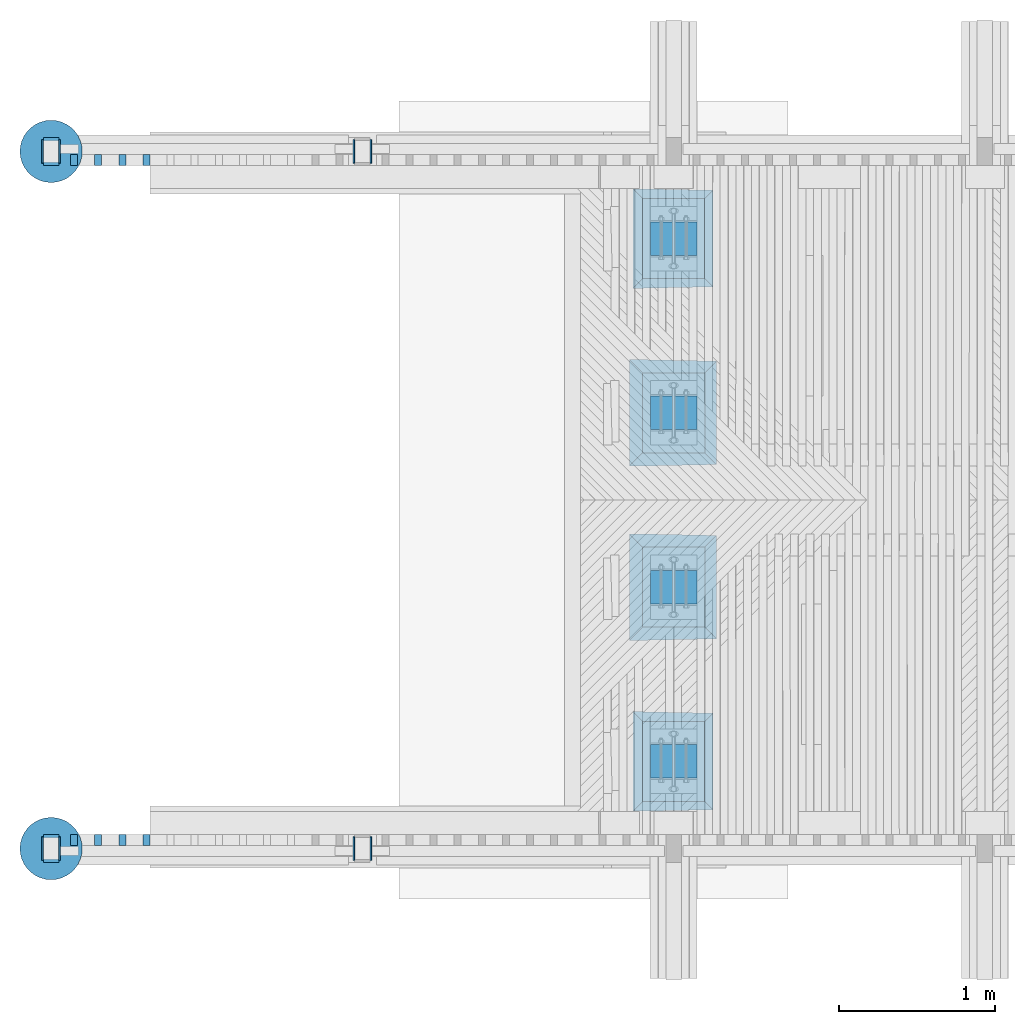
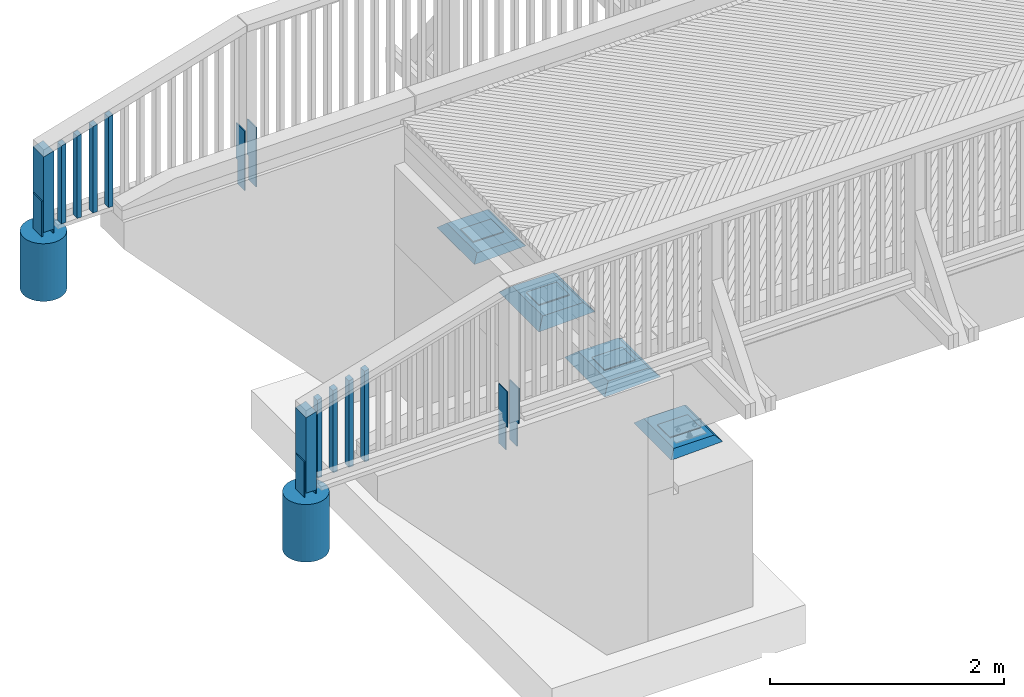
# One storey, part 12 of 53: 28 columns.
"""IFC2X3 building model written with IfcOpenShell, lengths in millimetres."""

from ifc_helpers import new_model, si_unit, frame, origin_with_axes, place, context, subcontext, project, spatial, faceted_brep, material, type_object, element, save


model = new_model("IFC2X3")

# Units and contexts
model_context = context("Model", 3, precision=1e-05, world=origin_with_axes())
body_context = subcontext(model_context, "Body", "Model", "MODEL_VIEW")
ifc_project = project(units=[si_unit("LENGTHUNIT", "METRE", prefix="MILLI"), si_unit("AREAUNIT", "SQUARE_METRE"), si_unit("VOLUMEUNIT", "CUBIC_METRE"), si_unit("MASSUNIT", "GRAM", prefix="KILO"), si_unit("TIMEUNIT", "SECOND"), si_unit("PLANEANGLEUNIT", "RADIAN"), si_unit("SOLIDANGLEUNIT", "STERADIAN"), si_unit("THERMODYNAMICTEMPERATUREUNIT", "DEGREE_CELSIUS"), si_unit("LUMINOUSINTENSITYUNIT", "LUMEN")], contexts=[model_context])

# Site, building, storey
site_placement = place(None, origin_with_axes())
site = spatial("IfcSite", under=ifc_project, at=site_placement, Name="Undefined", CompositionType="ELEMENT")
building_placement = place(site_placement, origin_with_axes())
building = spatial("IfcBuilding", under=site, at=building_placement, Name="Undefined", CompositionType="ELEMENT")
storey_placement = place(building_placement, origin_with_axes())
storey = spatial("IfcBuildingStorey", under=building, at=storey_placement, Name="Undefined", CompositionType="ELEMENT", Elevation=0.0)

# Columns
ifc_material_1 = material(Name="STEEL/AISI316")
column_type_1 = type_object("IfcColumnType", Name="PL150*10", PredefinedType="NOTDEFINED")
for number, where, z_axis, x_axis in (
    (1, (-3944.99999987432, 44605.0000000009, 2794.56000000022), (0.0, -1.0, 0.0), (0.0, 0.0, 1.0)),
    (2, (-1944.99999987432, 44605.0000000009, 2822.67000000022), (0.0, -1.0, 0.0), (0.0, 0.0, 1.0)),
):
    element("IfcColumn", number, at=place(storey_placement, frame(where, z_axis=z_axis, x_axis=x_axis)), inside=storey, type_object=column_type_1, material=ifc_material_1, Name="KAIDEPYLVÄS", ObjectType="PL150*10", context=body_context, shape_type="Brep", body=[
        faceted_brep([(0.0, -5.0, -50.0), (0.0, 5.0, -50.0), (250.0, 5.0, -50.0000000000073), (250.0, -5.0, -50.0000000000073), (250.0, -5.0, -75.0), (250.0, 5.0, -75.0), (0.0, 5.0, 75.0), (0.0, -5.0, 75.0), (620.0, -5.0, 75.0), (620.0, 5.0, 75.0), (620.0, -5.0, -75.0), (620.0, 5.0, -75.0)], [[[0, 1, 2, 3]], [[4, 3, 2, 5]], [[6, 7, 8, 9]], [[8, 10, 11, 9]], [[11, 10, 4, 5]], [[1, 6, 9, 11, 5, 2]], [[7, 6, 1, 0]], [[10, 8, 7, 0, 3, 4]]]),
    ])
for number, where, z_axis, x_axis in (
    (3, (-3944.99999987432, 40125.0, 2794.56000000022), (0.0, 1.0, 0.0), (0.0, 0.0, 1.0)),
    (4, (-1944.99999987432, 40125.0, 2822.67000000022), (0.0, 1.0, 0.0), (0.0, 0.0, 1.0)),
):
    element("IfcColumn", number, at=place(storey_placement, frame(where, z_axis=z_axis, x_axis=x_axis)), inside=storey, type_object=column_type_1, material=ifc_material_1, Name="KAIDEPYLVÄS", ObjectType="PL150*10", context=body_context, shape_type="Brep", body=[
        faceted_brep([(0.0, -5.0, -50.0), (0.0, 5.0, -50.0), (250.0, 5.0, -50.0000000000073), (250.0, -5.0, -50.0000000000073), (250.0, -5.0, -75.0), (250.0, 5.0, -75.0), (620.0, -5.0, 75.0), (620.0, -5.0, -75.0), (620.0, 5.0, -75.0), (620.0, 5.0, 75.0), (0.0, 5.0, 75.0), (0.0, -5.0, 75.0)], [[[0, 1, 2, 3]], [[4, 3, 2, 5]], [[6, 7, 8, 9]], [[10, 11, 6, 9]], [[11, 10, 1, 0]], [[7, 6, 11, 0, 3, 4]], [[8, 7, 4, 5]], [[1, 10, 9, 8, 5, 2]]]),
    ])
for number, where, z_axis, x_axis in (
    (5, (-4054.99999987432, 44605.0000000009, 2794.56000000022), (0.0, -1.0, 0.0), (0.0, 0.0, 1.0)),
    (6, (-2054.99999987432, 44605.0000000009, 2822.67000000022), (0.0, -1.0, 0.0), (0.0, 0.0, 1.0)),
):
    element("IfcColumn", number, at=place(storey_placement, frame(where, z_axis=z_axis, x_axis=x_axis)), inside=storey, type_object=column_type_1, material=ifc_material_1, Name="KAIDEPYLVÄS", ObjectType="PL150*10", context=body_context, shape_type="Brep", body=[
        faceted_brep([(0.0, -5.0, -50.0), (0.0, 5.0, -50.0), (250.0, 5.0, -50.0000000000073), (250.0, -5.0, -50.0000000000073), (250.0, -5.0, -75.0), (250.0, 5.0, -75.0), (0.0, 5.0, 75.0), (0.0, -5.0, 75.0), (620.0, -5.0, 75.0), (620.0, 5.0, 75.0), (620.0, -5.0, -75.0), (620.0, 5.0, -75.0)], [[[0, 1, 2, 3]], [[4, 3, 2, 5]], [[6, 7, 8, 9]], [[8, 10, 11, 9]], [[11, 10, 4, 5]], [[1, 6, 9, 11, 5, 2]], [[7, 6, 1, 0]], [[10, 8, 7, 0, 3, 4]]]),
    ])
for number, where, z_axis, x_axis in (
    (7, (-4054.99999987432, 40125.0, 2794.56000000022), (0.0, 1.0, 0.0), (0.0, 0.0, 1.0)),
    (8, (-2054.99999987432, 40125.0, 2822.67000000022), (0.0, 1.0, 0.0), (0.0, 0.0, 1.0)),
):
    element("IfcColumn", number, at=place(storey_placement, frame(where, z_axis=z_axis, x_axis=x_axis)), inside=storey, type_object=column_type_1, material=ifc_material_1, Name="KAIDEPYLVÄS", ObjectType="PL150*10", context=body_context, shape_type="Brep", body=[
        faceted_brep([(0.0, -5.0, -50.0), (0.0, 5.0, -50.0), (250.0, 5.0, -50.0000000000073), (250.0, -5.0, -50.0000000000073), (250.0, -5.0, -75.0), (250.0, 5.0, -75.0), (620.0, -5.0, 75.0), (620.0, -5.0, -75.0), (620.0, 5.0, -75.0), (620.0, 5.0, 75.0), (0.0, 5.0, 75.0), (0.0, -5.0, 75.0)], [[[0, 1, 2, 3]], [[4, 3, 2, 5]], [[6, 7, 8, 9]], [[10, 11, 6, 9]], [[11, 10, 1, 0]], [[7, 6, 11, 0, 3, 4]], [[8, 7, 4, 5]], [[1, 10, 9, 8, 5, 2]]]),
    ])
ifc_material_2 = material(Name="TIMBER/Timber_Undefined")
column_type_2 = type_object("IfcColumnType", Name="180*100", PredefinedType="NOTDEFINED")
column_1_placement = place(storey_placement, frame((-3999.99999924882, 44604.9879080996, 3109.68000000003), z_axis=(0.0, -1.0, 0.0), x_axis=(0.0, 0.0, 1.0)))
element("IfcColumn", 9, at=column_1_placement, inside=storey, type_object=column_type_2, material=ifc_material_2, Name="KAIDEPYLVÄS", ObjectType="180*100", context=body_context, shape_type="Brep", body=[
    faceted_brep([(-15.1200000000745, 50.0, -90.0), (-15.1200000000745, 50.0, 90.0), (771.050236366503, 50.0, 90.0), (771.050236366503, 50.0, -90.0), (-15.1200000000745, -50.0, 90.0), (800.720209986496, -50.0, 90.0), (-15.1200000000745, -50.0, -90.0), (800.720209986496, -50.0, -90.0)], [[[0, 1, 2, 3]], [[1, 4, 5, 2]], [[4, 6, 7, 5]], [[6, 0, 3, 7]], [[5, 7, 3, 2]], [[6, 4, 1, 0]]]),
])
column_2_placement = place(storey_placement, frame((-3999.99999924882, 40125.0120919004, 3109.68000000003), z_axis=(0.0, 1.0, 0.0), x_axis=(0.0, 0.0, 1.0)))
element("IfcColumn", 10, at=column_2_placement, inside=storey, type_object=column_type_2, material=ifc_material_2, Name="KAIDEPYLVÄS", ObjectType="180*100", context=body_context, shape_type="Brep", body=[
    faceted_brep([(-15.1200000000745, 50.0, -90.0), (-15.1200000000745, 50.0, 90.0), (800.720209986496, 50.0, 90.0), (800.720209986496, 50.0, -90.0), (-15.1200000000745, -50.0, 90.0), (771.050236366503, -50.0, 90.0), (-15.1200000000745, -50.0, -90.0), (771.050236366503, -50.0, -90.0)], [[[0, 1, 2, 3]], [[1, 4, 5, 2]], [[4, 6, 7, 5]], [[6, 0, 3, 7]], [[5, 7, 3, 2]], [[6, 4, 1, 0]]]),
])
ifc_material_3 = material(Name="CONCRETE/Concrete_Undefined")
column_type_3 = type_object("IfcColumnType", Name="D400", PredefinedType="NOTDEFINED")
column_3_placement = place(storey_placement, frame((-3999.99999953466, 44604.9858270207, 2444.55999999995), z_axis=(-1.0, 0.0, 0.0), x_axis=(0.0, 0.0, 1.0)))
element("IfcColumn", 11, at=column_3_placement, inside=storey, type_object=column_type_3, material=ifc_material_3, Name="COLUMN", ObjectType="D400", context=body_context, shape_type="Brep", body=[
    faceted_brep([(0.0, -200.0, 0.0), (0.0, -196.961550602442, -34.7296355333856), (600.0, -196.961550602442, -34.7296355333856), (600.0, -200.0, 0.0), (0.0, -187.93852415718, -68.4040286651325), (600.0, -187.93852415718, -68.4040286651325), (0.0, -173.205080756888, -100.0), (600.0, -173.205080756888, -100.0), (0.0, -153.208888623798, -128.55752193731), (600.0, -153.208888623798, -128.55752193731), (0.0, -128.557521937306, -153.208888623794), (600.0, -128.557521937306, -153.208888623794), (0.0, -100.0, -173.205080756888), (600.0, -100.0, -173.205080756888), (0.0, -68.4040286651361, -187.93852415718), (600.0, -68.4040286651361, -187.93852415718), (0.0, -34.7296355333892, -196.961550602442), (600.0, -34.7296355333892, -196.961550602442), (0.0, 0.0, -200.0), (600.0, 0.0, -200.0), (0.0, 34.7296355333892, -196.961550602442), (600.0, 34.7296355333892, -196.961550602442), (0.0, 68.4040286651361, -187.93852415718), (600.0, 68.4040286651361, -187.93852415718), (0.0, 100.0, -173.205080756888), (600.0, 100.0, -173.205080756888), (0.0, 128.557521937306, -153.208888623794), (600.0, 128.557521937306, -153.208888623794), (0.0, 153.208888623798, -128.55752193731), (600.0, 153.208888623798, -128.55752193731), (0.0, 173.205080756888, -100.0), (600.0, 173.205080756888, -100.0), (0.0, 187.93852415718, -68.4040286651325), (600.0, 187.93852415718, -68.4040286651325), (0.0, 196.961550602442, -34.7296355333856), (600.0, 196.961550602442, -34.7296355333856), (0.0, 200.0, 0.0), (600.0, 200.0, 0.0), (0.0, 196.961550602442, 34.7296355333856), (600.0, 196.961550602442, 34.7296355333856), (0.0, 187.93852415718, 68.4040286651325), (600.0, 187.93852415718, 68.4040286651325), (0.0, 173.205080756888, 100.0), (600.0, 173.205080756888, 100.0), (0.0, 153.208888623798, 128.55752193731), (600.0, 153.208888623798, 128.55752193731), (0.0, 128.557521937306, 153.208888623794), (600.0, 128.557521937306, 153.208888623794), (0.0, 100.0, 173.205080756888), (600.0, 100.0, 173.205080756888), (0.0, 68.4040286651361, 187.93852415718), (600.0, 68.4040286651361, 187.93852415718), (0.0, 34.7296355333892, 196.961550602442), (600.0, 34.7296355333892, 196.961550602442), (0.0, 0.0, 200.0), (600.0, 0.0, 200.0), (0.0, -34.7296355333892, 196.961550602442), (600.0, -34.7296355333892, 196.961550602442), (0.0, -68.4040286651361, 187.93852415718), (600.0, -68.4040286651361, 187.93852415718), (0.0, -100.0, 173.205080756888), (600.0, -100.0, 173.205080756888), (0.0, -128.557521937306, 153.208888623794), (600.0, -128.557521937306, 153.208888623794), (0.0, -153.208888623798, 128.55752193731), (600.0, -153.208888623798, 128.55752193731), (0.0, -173.205080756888, 100.0), (600.0, -173.205080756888, 100.0), (0.0, -187.93852415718, 68.4040286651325), (600.0, -187.93852415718, 68.4040286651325), (0.0, -196.961550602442, 34.7296355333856), (600.0, -196.961550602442, 34.7296355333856)], [[[0, 1, 2, 3]], [[1, 4, 5, 2]], [[4, 6, 7, 5]], [[6, 8, 9, 7]], [[8, 10, 11, 9]], [[10, 12, 13, 11]], [[12, 14, 15, 13]], [[14, 16, 17, 15]], [[16, 18, 19, 17]], [[18, 20, 21, 19]], [[20, 22, 23, 21]], [[22, 24, 25, 23]], [[24, 26, 27, 25]], [[26, 28, 29, 27]], [[28, 30, 31, 29]], [[30, 32, 33, 31]], [[32, 34, 35, 33]], [[34, 36, 37, 35]], [[36, 38, 39, 37]], [[38, 40, 41, 39]], [[40, 42, 43, 41]], [[42, 44, 45, 43]], [[44, 46, 47, 45]], [[46, 48, 49, 47]], [[48, 50, 51, 49]], [[50, 52, 53, 51]], [[52, 54, 55, 53]], [[54, 56, 57, 55]], [[56, 58, 59, 57]], [[58, 60, 61, 59]], [[60, 62, 63, 61]], [[62, 64, 65, 63]], [[64, 66, 67, 65]], [[66, 68, 69, 67]], [[68, 70, 71, 69]], [[70, 0, 3, 71]], [[5, 7, 9, 11, 13, 15, 17, 19, 21, 23, 25, 27, 29, 31, 33, 35, 37, 39, 41, 43, 45, 47, 49, 51, 53, 55, 57, 59, 61, 63, 65, 67, 69, 71, 3, 2]], [[70, 68, 66, 64, 62, 60, 58, 56, 54, 52, 50, 48, 46, 44, 42, 40, 38, 36, 34, 32, 30, 28, 26, 24, 22, 20, 18, 16, 14, 12, 10, 8, 6, 4, 1, 0]]]),
])
column_4_placement = place(storey_placement, frame((-3999.99999953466, 40125.0141729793, 2444.55999999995), z_axis=(-1.0, 0.0, 0.0), x_axis=(0.0, 0.0, 1.0)))
element("IfcColumn", 12, at=column_4_placement, inside=storey, type_object=column_type_3, material=ifc_material_3, Name="COLUMN", ObjectType="D400", context=body_context, shape_type="Brep", body=[
    faceted_brep([(0.0, -200.0, 0.0), (0.0, -196.961550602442, -34.7296355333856), (600.0, -196.961550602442, -34.7296355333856), (600.0, -200.0, 0.0), (0.0, -187.93852415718, -68.4040286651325), (600.0, -187.93852415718, -68.4040286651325), (0.0, -173.205080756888, -100.0), (600.0, -173.205080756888, -100.0), (0.0, -153.208888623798, -128.55752193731), (600.0, -153.208888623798, -128.55752193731), (0.0, -128.557521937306, -153.208888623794), (600.0, -128.557521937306, -153.208888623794), (0.0, -100.0, -173.205080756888), (600.0, -100.0, -173.205080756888), (0.0, -68.4040286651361, -187.93852415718), (600.0, -68.4040286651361, -187.93852415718), (0.0, -34.7296355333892, -196.961550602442), (600.0, -34.7296355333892, -196.961550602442), (0.0, 0.0, -200.0), (600.0, 0.0, -200.0), (0.0, 34.7296355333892, -196.961550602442), (600.0, 34.7296355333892, -196.961550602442), (0.0, 68.4040286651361, -187.93852415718), (600.0, 68.4040286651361, -187.93852415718), (0.0, 100.0, -173.205080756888), (600.0, 100.0, -173.205080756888), (0.0, 128.557521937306, -153.208888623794), (600.0, 128.557521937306, -153.208888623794), (0.0, 153.208888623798, -128.55752193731), (600.0, 153.208888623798, -128.55752193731), (0.0, 173.205080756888, -100.0), (600.0, 173.205080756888, -100.0), (0.0, 187.93852415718, -68.4040286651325), (600.0, 187.93852415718, -68.4040286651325), (0.0, 196.961550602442, -34.7296355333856), (600.0, 196.961550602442, -34.7296355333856), (0.0, 200.0, 0.0), (600.0, 200.0, 0.0), (0.0, 196.961550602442, 34.7296355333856), (600.0, 196.961550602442, 34.7296355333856), (0.0, 187.93852415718, 68.4040286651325), (600.0, 187.93852415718, 68.4040286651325), (0.0, 173.205080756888, 100.0), (600.0, 173.205080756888, 100.0), (0.0, 153.208888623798, 128.55752193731), (600.0, 153.208888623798, 128.55752193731), (0.0, 128.557521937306, 153.208888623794), (600.0, 128.557521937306, 153.208888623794), (0.0, 100.0, 173.205080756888), (600.0, 100.0, 173.205080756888), (0.0, 68.4040286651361, 187.93852415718), (600.0, 68.4040286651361, 187.93852415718), (0.0, 34.7296355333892, 196.961550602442), (600.0, 34.7296355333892, 196.961550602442), (0.0, 0.0, 200.0), (600.0, 0.0, 200.0), (0.0, -34.7296355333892, 196.961550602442), (600.0, -34.7296355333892, 196.961550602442), (0.0, -68.4040286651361, 187.93852415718), (600.0, -68.4040286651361, 187.93852415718), (0.0, -100.0, 173.205080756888), (600.0, -100.0, 173.205080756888), (0.0, -128.557521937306, 153.208888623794), (600.0, -128.557521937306, 153.208888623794), (0.0, -153.208888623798, 128.55752193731), (600.0, -153.208888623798, 128.55752193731), (0.0, -173.205080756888, 100.0), (600.0, -173.205080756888, 100.0), (0.0, -187.93852415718, 68.4040286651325), (600.0, -187.93852415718, 68.4040286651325), (0.0, -196.961550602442, 34.7296355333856), (600.0, -196.961550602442, 34.7296355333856)], [[[0, 1, 2, 3]], [[1, 4, 5, 2]], [[4, 6, 7, 5]], [[6, 8, 9, 7]], [[8, 10, 11, 9]], [[10, 12, 13, 11]], [[12, 14, 15, 13]], [[14, 16, 17, 15]], [[16, 18, 19, 17]], [[18, 20, 21, 19]], [[20, 22, 23, 21]], [[22, 24, 25, 23]], [[24, 26, 27, 25]], [[26, 28, 29, 27]], [[28, 30, 31, 29]], [[30, 32, 33, 31]], [[32, 34, 35, 33]], [[34, 36, 37, 35]], [[36, 38, 39, 37]], [[38, 40, 41, 39]], [[40, 42, 43, 41]], [[42, 44, 45, 43]], [[44, 46, 47, 45]], [[46, 48, 49, 47]], [[48, 50, 51, 49]], [[50, 52, 53, 51]], [[52, 54, 55, 53]], [[54, 56, 57, 55]], [[56, 58, 59, 57]], [[58, 60, 61, 59]], [[60, 62, 63, 61]], [[62, 64, 65, 63]], [[64, 66, 67, 65]], [[66, 68, 69, 67]], [[68, 70, 71, 69]], [[70, 0, 3, 71]], [[5, 7, 9, 11, 13, 15, 17, 19, 21, 23, 25, 27, 29, 31, 33, 35, 37, 39, 41, 43, 45, 47, 49, 51, 53, 55, 57, 59, 61, 63, 65, 67, 69, 71, 3, 2]], [[70, 68, 66, 64, 62, 60, 58, 56, 54, 52, 50, 48, 46, 44, 42, 40, 38, 36, 34, 32, 30, 28, 26, 24, 22, 20, 18, 16, 14, 12, 10, 8, 6, 4, 1, 0]]]),
])
column_type_4 = type_object("IfcColumnType", Name="70*45", PredefinedType="NOTDEFINED")
column_5_placement = place(storey_placement, frame((-3387.49999924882, 44549.9879080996, 3079.15), z_axis=(0.0, 1.0, 0.0), x_axis=(0.0, 0.0, 1.0)))
element("IfcColumn", 13, at=column_5_placement, inside=storey, type_object=column_type_4, material=ifc_material_2, Name="BEAM", ObjectType="70*45", context=body_context, shape_type="Brep", body=[
    faceted_brep([(50.5074580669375, 22.5, -35.0), (50.5074580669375, 22.5, 35.0), (1005.72400020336, 22.5, 35.0), (1005.72400020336, 22.5, -35.0), (49.8204606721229, -22.5, 35.0), (992.288494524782, -22.5, 35.0), (49.8204606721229, -22.5, -35.0), (992.288494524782, -22.5, -35.0)], [[[0, 1, 2, 3]], [[1, 4, 5, 2]], [[4, 6, 7, 5]], [[6, 0, 3, 7]], [[5, 7, 3, 2]], [[6, 4, 1, 0]]]),
])
column_6_placement = place(storey_placement, frame((-3542.49999924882, 44549.9879080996, 3079.15), z_axis=(0.0, 1.0, 0.0), x_axis=(0.0, 0.0, 1.0)))
element("IfcColumn", 14, at=column_6_placement, inside=storey, type_object=column_type_4, material=ifc_material_2, Name="BEAM", ObjectType="70*45", context=body_context, shape_type="Brep", body=[
    faceted_brep([(48.1411337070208, 22.5, -35.0), (48.1411337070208, 22.5, 35.0), (959.446147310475, 22.5, 35.0), (959.446147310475, 22.5, -35.0), (47.4541363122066, -22.5, 35.0), (946.010641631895, -22.5, 35.0), (47.4541363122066, -22.5, -35.0), (946.010641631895, -22.5, -35.0)], [[[0, 1, 2, 3]], [[1, 4, 5, 2]], [[4, 6, 7, 5]], [[6, 0, 3, 7]], [[5, 7, 3, 2]], [[6, 4, 1, 0]]]),
])
column_7_placement = place(storey_placement, frame((-3697.49999924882, 44549.9879080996, 3079.15), z_axis=(0.0, 1.0, 0.0), x_axis=(0.0, 0.0, 1.0)))
element("IfcColumn", 15, at=column_7_placement, inside=storey, type_object=column_type_4, material=ifc_material_2, Name="BEAM", ObjectType="70*45", context=body_context, shape_type="Brep", body=[
    faceted_brep([(45.7748093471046, 22.5, -35.0), (45.7748093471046, 22.5, 35.0), (913.168294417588, 22.5, 35.0), (913.168294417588, 22.5, -35.0), (45.0878119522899, -22.5, 35.0), (899.732788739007, -22.5, 35.0), (45.0878119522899, -22.5, -35.0), (899.732788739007, -22.5, -35.0)], [[[0, 1, 2, 3]], [[1, 4, 5, 2]], [[4, 6, 7, 5]], [[6, 0, 3, 7]], [[5, 7, 3, 2]], [[6, 4, 1, 0]]]),
])
column_8_placement = place(storey_placement, frame((-3852.49999924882, 44549.9879080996, 3079.15), z_axis=(0.0, 1.0, 0.0), x_axis=(0.0, 0.0, 1.0)))
element("IfcColumn", 16, at=column_8_placement, inside=storey, type_object=column_type_4, material=ifc_material_2, Name="BEAM", ObjectType="70*45", context=body_context, shape_type="Brep", body=[
    faceted_brep([(43.4084849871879, 22.5, -35.0), (43.4084849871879, 22.5, 35.0), (866.8904415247, 22.5, 35.0), (866.8904415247, 22.5, -35.0), (42.7214875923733, -22.5, 35.0), (853.45493584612, -22.5, 35.0), (42.7214875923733, -22.5, -35.0), (853.45493584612, -22.5, -35.0)], [[[0, 1, 2, 3]], [[1, 4, 5, 2]], [[4, 6, 7, 5]], [[6, 0, 3, 7]], [[5, 7, 3, 2]], [[6, 4, 1, 0]]]),
])
column_9_placement = place(storey_placement, frame((-3387.49999924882, 40180.0120919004, 3079.15), z_axis=(0.0, -1.0, 0.0), x_axis=(0.0, 0.0, 1.0)))
element("IfcColumn", 17, at=column_9_placement, inside=storey, type_object=column_type_4, material=ifc_material_2, Name="BEAM", ObjectType="70*45", context=body_context, shape_type="Brep", body=[
    faceted_brep([(49.8204606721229, 22.5, -35.0), (49.8204606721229, 22.5, 35.0), (992.288494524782, 22.5, 35.0), (992.288494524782, 22.5, -35.0), (50.5074580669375, -22.5, 35.0), (1005.72400020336, -22.5, 35.0), (50.5074580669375, -22.5, -35.0), (1005.72400020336, -22.5, -35.0)], [[[0, 1, 2, 3]], [[1, 4, 5, 2]], [[4, 6, 7, 5]], [[6, 0, 3, 7]], [[5, 7, 3, 2]], [[6, 4, 1, 0]]]),
])
column_10_placement = place(storey_placement, frame((-3542.49999924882, 40180.0120919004, 3079.15), z_axis=(0.0, -1.0, 0.0), x_axis=(0.0, 0.0, 1.0)))
element("IfcColumn", 18, at=column_10_placement, inside=storey, type_object=column_type_4, material=ifc_material_2, Name="BEAM", ObjectType="70*45", context=body_context, shape_type="Brep", body=[
    faceted_brep([(47.4541363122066, 22.5, -35.0), (47.4541363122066, 22.5, 35.0), (946.010641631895, 22.5, 35.0), (946.010641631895, 22.5, -35.0), (48.1411337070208, -22.5, 35.0), (959.446147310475, -22.5, 35.0), (48.1411337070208, -22.5, -35.0), (959.446147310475, -22.5, -35.0)], [[[0, 1, 2, 3]], [[1, 4, 5, 2]], [[4, 6, 7, 5]], [[6, 0, 3, 7]], [[5, 7, 3, 2]], [[6, 4, 1, 0]]]),
])
column_11_placement = place(storey_placement, frame((-3697.49999924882, 40180.0120919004, 3079.15), z_axis=(0.0, -1.0, 0.0), x_axis=(0.0, 0.0, 1.0)))
element("IfcColumn", 19, at=column_11_placement, inside=storey, type_object=column_type_4, material=ifc_material_2, Name="BEAM", ObjectType="70*45", context=body_context, shape_type="Brep", body=[
    faceted_brep([(45.0878119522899, 22.5, -35.0), (45.0878119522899, 22.5, 35.0), (899.732788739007, 22.5, 35.0), (899.732788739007, 22.5, -35.0), (45.7748093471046, -22.5, 35.0), (913.168294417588, -22.5, 35.0), (45.7748093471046, -22.5, -35.0), (913.168294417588, -22.5, -35.0)], [[[0, 1, 2, 3]], [[1, 4, 5, 2]], [[4, 6, 7, 5]], [[6, 0, 3, 7]], [[5, 7, 3, 2]], [[6, 4, 1, 0]]]),
])
column_12_placement = place(storey_placement, frame((-3852.49999924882, 40180.0120919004, 3079.15), z_axis=(0.0, -1.0, 0.0), x_axis=(0.0, 0.0, 1.0)))
element("IfcColumn", 20, at=column_12_placement, inside=storey, type_object=column_type_4, material=ifc_material_2, Name="BEAM", ObjectType="70*45", context=body_context, shape_type="Brep", body=[
    faceted_brep([(42.7214875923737, 22.5, -35.0), (42.7214875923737, 22.5, 35.0), (853.45493584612, 22.5, 35.0), (853.45493584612, 22.5, -35.0), (43.4084849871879, -22.5, 35.0), (866.8904415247, -22.5, 35.0), (43.4084849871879, -22.5, -35.0), (866.8904415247, -22.5, -35.0)], [[[0, 1, 2, 3]], [[1, 4, 5, 2]], [[4, 6, 7, 5]], [[6, 0, 3, 7]], [[5, 7, 3, 2]], [[6, 4, 1, 0]]]),
])
column_type_5 = type_object("IfcColumnType", Name="570*685", PredefinedType="NOTDEFINED")
for number, where, z_axis, x_axis, name in (
    (21, (0.0, 42925.0000000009, 1922.0), (-1.0, 0.0, 0.0), (0.0, 0.0, 1.0), "COLUMN"),
    (22, (0.0, 41805.0, 1922.0), (-1.0, 0.0, 0.0), (0.0, 0.0, 1.0), "COLUMN"),
):
    element("IfcColumn", number, at=place(storey_placement, frame(where, z_axis=z_axis, x_axis=x_axis)), inside=storey, type_object=column_type_5, material=ifc_material_3, Name=name, ObjectType="570*685", context=body_context, shape_type="Brep", body=[
        faceted_brep([(-9.52281374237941, -342.5, 285.0), (75.3299999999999, -257.647186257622, 200.147186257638), (75.3299999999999, 257.647186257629, 200.147186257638), (-9.52281374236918, 342.5, 285.0), (0.770343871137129, -332.206842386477, -274.706842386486), (-9.52281374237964, -342.5, 229.65787209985), (-10.6522449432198, -342.5, 285.0), (-10.6522449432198, 342.5, 285.0), (-9.52281374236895, 342.5, 229.657872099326), (0.770343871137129, 332.206842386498, -274.706842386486), (75.3299999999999, -257.647186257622, -200.147186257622), (75.3299999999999, 257.647186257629, -200.147186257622)], [[[0, 1, 2, 3]], [[4, 5, 6, 7, 8, 9]], [[10, 4, 9, 11]], [[10, 11, 2, 1]], [[5, 4, 10, 1, 0]], [[6, 5, 0]], [[7, 6, 0, 3]], [[7, 3, 8]], [[11, 9, 8, 3, 2]]]),
    ])
column_type_6 = type_object("IfcColumnType", Name="524*639", PredefinedType="NOTDEFINED")
for number, where, z_axis, x_axis, name in (
    (23, (0.0, 44045.0000000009, 1900.0), (-1.0, 0.0, 0.0), (0.0, 0.0, 1.0), "COLUMN"),
    (24, (0.0, 40685.0, 1900.0), (-1.0, 0.0, 0.0), (0.0, 0.0, 1.0), "COLUMN"),
):
    element("IfcColumn", number, at=place(storey_placement, frame(where, z_axis=z_axis, x_axis=x_axis)), inside=storey, type_object=column_type_6, material=ifc_material_3, Name=name, ObjectType="524*639", context=body_context, shape_type="Brep", body=[
        faceted_brep([(13.1046032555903, -319.5, 262.0), (75.3299999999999, -257.274603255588, 199.774603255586), (75.3299999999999, 257.274603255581, 199.774603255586), (13.1046032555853, 319.5, 262.0), (22.3220922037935, -310.282511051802, -252.782511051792), (13.1046032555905, -319.5, 198.874439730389), (11.816326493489, -319.5, 262.0), (11.816326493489, 319.5, 262.0), (13.1046032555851, 319.5, 198.874439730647), (22.3220922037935, 310.282511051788, -252.782511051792), (75.3299999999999, -257.274603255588, -199.774603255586), (75.3299999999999, 257.274603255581, -199.774603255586)], [[[0, 1, 2, 3]], [[4, 5, 6, 7, 8, 9]], [[10, 4, 9, 11]], [[10, 11, 2, 1]], [[5, 4, 10, 1, 0]], [[6, 5, 0]], [[7, 6, 0, 3]], [[7, 3, 8]], [[11, 9, 8, 3, 2]]]),
    ])
ifc_material_4 = material(Name="MISCELLANEOUS/NEOPREENI")
column_type_7 = type_object("IfcColumnType", Name="PL300*215", PredefinedType="NOTDEFINED")
for number, where, z_axis, x_axis, name in (
    (25, (0.0, 44045.0, 1975.33), (-1.0, 0.0, 0.0), (0.0, 0.0, 1.0), "COLUMN"),
    (26, (0.0, 42925.0, 1997.33), (-1.0, 0.0, 0.0), (0.0, 0.0, 1.0), "COLUMN"),
    (27, (0.0, 41805.0, 1997.33), (-1.0, 0.0, 0.0), (0.0, 0.0, 1.0), "COLUMN"),
    (28, (0.0, 40685.0, 1975.33), (-1.0, 0.0, 0.0), (0.0, 0.0, 1.0), "COLUMN"),
):
    element("IfcColumn", number, at=place(storey_placement, frame(where, z_axis=z_axis, x_axis=x_axis)), inside=storey, type_object=column_type_7, material=ifc_material_4, Name=name, ObjectType="PL300*215", context=body_context, shape_type="Brep", body=[
        faceted_brep([(0.0, 107.5, -150.0), (0.0, 107.5, 150.0), (10.0, 107.5, 150.0), (10.0, 107.5, -150.0), (0.0, -107.5, 150.0), (10.0, -107.5, 150.0), (0.0, -107.5, -150.0), (10.0, -107.5, -150.0)], [[[0, 1, 2, 3]], [[1, 4, 5, 2]], [[4, 6, 7, 5]], [[6, 0, 3, 7]], [[5, 7, 3, 2]], [[6, 4, 1, 0]]]),
    ])

save(model, "model.ifc")
